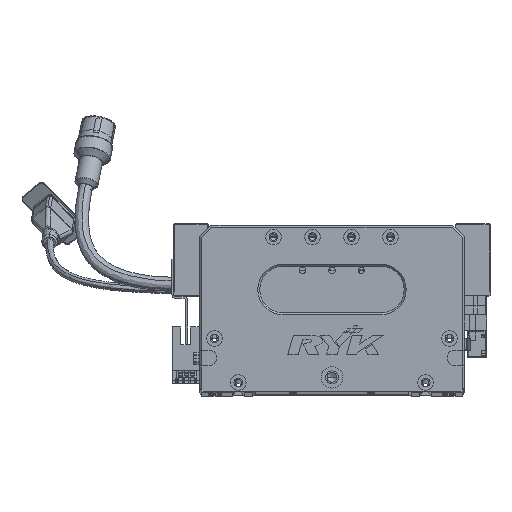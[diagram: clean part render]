
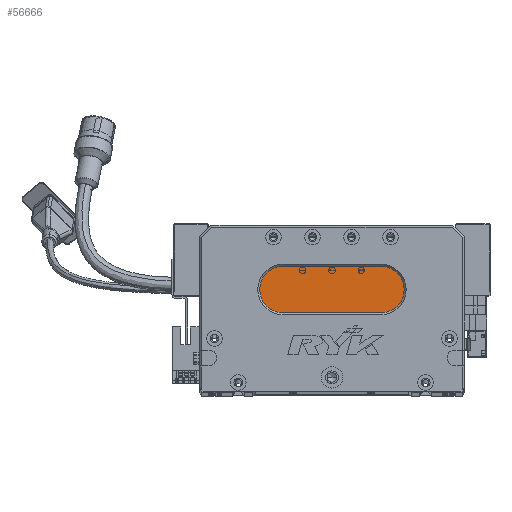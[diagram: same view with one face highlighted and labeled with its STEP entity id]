
A CAD part, top view. The second image highlights one B-rep face of the part: STEP entity #56666.
In plain terms, the highlighted planar face has unit normal (0, 0, 1) as drawn and (0, 0, -1) by its records, which use the part's own axes.
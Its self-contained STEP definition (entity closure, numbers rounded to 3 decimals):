
#1762 = DIRECTION ( 'NONE',  ( 0., 0., -1. ) ) ;
#3484 = EDGE_CURVE ( 'NONE', #83894, #16865, #63627, .T. ) ;
#5861 = ORIENTED_EDGE ( 'NONE', *, *, #14962, .T. ) ;
#6217 = EDGE_CURVE ( 'NONE', #63337, #83894, #75289, .T. ) ;
#7291 = DIRECTION ( 'NONE',  ( 0., 0., -1. ) ) ;
#7887 = DIRECTION ( 'NONE',  ( -1., 0., 0. ) ) ;
#8836 = ORIENTED_EDGE ( 'NONE', *, *, #50265, .T. ) ;
#10048 = VERTEX_POINT ( 'NONE', #57832 ) ;
#10125 = VECTOR ( 'NONE', #14701, 1000. ) ;
#14701 = DIRECTION ( 'NONE',  ( 1., 0., 0. ) ) ;
#14962 = EDGE_CURVE ( 'NONE', #16865, #47304, #54604, .T. ) ;
#16865 = VERTEX_POINT ( 'NONE', #52466 ) ;
#17646 = CARTESIAN_POINT ( 'NONE',  ( 43., 52., 13. ) ) ;
#17656 = LINE ( 'NONE', #82607, #31843 ) ;
#17671 = ORIENTED_EDGE ( 'NONE', *, *, #6217, .T. ) ;
#19799 = CARTESIAN_POINT ( 'NONE',  ( 93., 40., 13. ) ) ;
#23568 = CARTESIAN_POINT ( 'NONE',  ( 31., 52., 13. ) ) ;
#24379 = DIRECTION ( 'NONE',  ( 0., 0., -1. ) ) ;
#26808 = PLANE ( 'NONE',  #64225 ) ;
#28244 = AXIS2_PLACEMENT_3D ( 'NONE', #17646, #60594, #31969 ) ;
#28502 = AXIS2_PLACEMENT_3D ( 'NONE', #78628, #1762, #7887 ) ;
#28645 = EDGE_CURVE ( 'NONE', #47304, #10048, #17656, .T. ) ;
#31843 = VECTOR ( 'NONE', #68866, 1000. ) ;
#31969 = DIRECTION ( 'NONE',  ( -1., 0., 0. ) ) ;
#42750 = ORIENTED_EDGE ( 'NONE', *, *, #3484, .T. ) ;
#47304 = VERTEX_POINT ( 'NONE', #19799 ) ;
#49435 = CARTESIAN_POINT ( 'NONE',  ( 93., 64., 13. ) ) ;
#50265 = EDGE_CURVE ( 'NONE', #10048, #63337, #65029, .T. ) ;
#52466 = CARTESIAN_POINT ( 'NONE',  ( 93., 64., 13. ) ) ;
#54604 = CIRCLE ( 'NONE', #74331, 12. ) ;
#55767 = CARTESIAN_POINT ( 'NONE',  ( 93., 52., 13. ) ) ;
#56666 = ADVANCED_FACE ( 'NONE', ( #73257 ), #26808, .T. ) ;
#56671 = DIRECTION ( 'NONE',  ( -1., 0., 0. ) ) ;
#57832 = CARTESIAN_POINT ( 'NONE',  ( 43., 40., 13. ) ) ;
#59425 = CARTESIAN_POINT ( 'NONE',  ( 93., 52., 13. ) ) ;
#60594 = DIRECTION ( 'NONE',  ( 0., 0., -1. ) ) ;
#63337 = VERTEX_POINT ( 'NONE', #23568 ) ;
#63627 = LINE ( 'NONE', #49435, #10125 ) ;
#64225 = AXIS2_PLACEMENT_3D ( 'NONE', #59425, #24379, #87197 ) ;
#65029 = CIRCLE ( 'NONE', #28502, 12. ) ;
#68866 = DIRECTION ( 'NONE',  ( -1., 0., 0. ) ) ;
#71469 = CARTESIAN_POINT ( 'NONE',  ( 43., 64., 13. ) ) ;
#73257 = FACE_OUTER_BOUND ( 'NONE', #80052, .T. ) ;
#74331 = AXIS2_PLACEMENT_3D ( 'NONE', #55767, #7291, #56671 ) ;
#75289 = CIRCLE ( 'NONE', #28244, 12. ) ;
#78628 = CARTESIAN_POINT ( 'NONE',  ( 43., 52., 13. ) ) ;
#80052 = EDGE_LOOP ( 'NONE', ( #5861, #84403, #8836, #17671, #42750 ) ) ;
#82607 = CARTESIAN_POINT ( 'NONE',  ( 93., 40., 13. ) ) ;
#83894 = VERTEX_POINT ( 'NONE', #71469 ) ;
#84403 = ORIENTED_EDGE ( 'NONE', *, *, #28645, .T. ) ;
#87197 = DIRECTION ( 'NONE',  ( -1., 0., 0. ) ) ;
